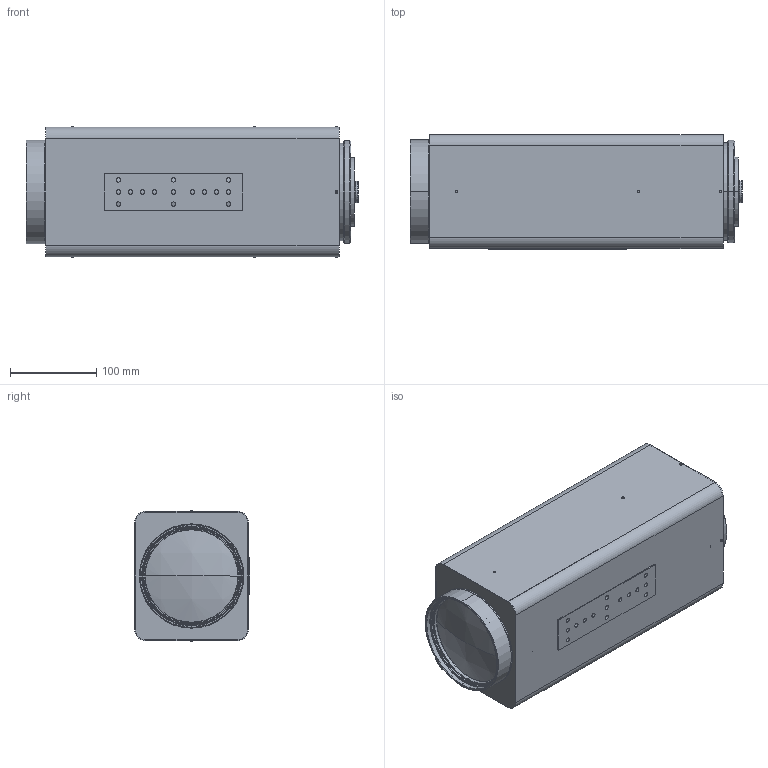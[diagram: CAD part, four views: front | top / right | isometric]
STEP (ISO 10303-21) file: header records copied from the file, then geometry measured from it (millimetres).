
FILE_DESCRIPTION (( 'STEP AP203' ), '1' );
FILE_NAME ('Y64Z16RH.STEP', '2017-04-03T02:15:36', ( '' ), ( '' ), 'SwSTEP 2.0', 'SolidWorks 2017', '' );
FILE_SCHEMA (( 'CONFIG_CONTROL_DESIGN' ));
Length unit declared in the file: millimetre
Products named in the file (1): Y64Z16RH
Bounding box: 385 x 134 x 151 mm (x, y, z)
Volume: 4939202.5 mm3; surface area: 604687.3 mm2
Topology: 13 solids, 13 shells, 327 faces, 698 edges, 439 vertices
Faces by surface type: cylinder 138, plane 105, cone 62, torus 20, sphere 2
Entity records: 9025 total; most frequent: DIRECTION 1738, CARTESIAN_POINT 1465, ORIENTED_EDGE 1396, AXIS2_PLACEMENT_3D 712, EDGE_CURVE 698, VERTEX_POINT 439, EDGE_LOOP 403, CIRCLE 384
